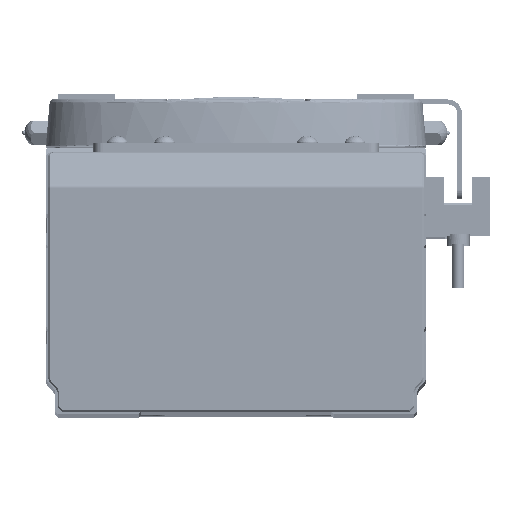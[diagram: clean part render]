
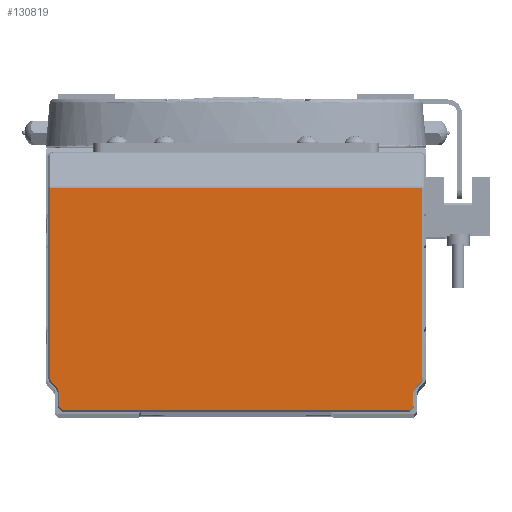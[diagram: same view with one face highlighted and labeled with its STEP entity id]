
A CAD part, top view. The second image highlights one B-rep face of the part: STEP entity #130819.
In plain terms, the highlighted planar face has unit normal (0, 0, 1).
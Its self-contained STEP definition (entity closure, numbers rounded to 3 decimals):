
#4236 = DIRECTION ( 'NONE',  ( 0.707, -0.707, 0. ) ) ;
#6943 = VECTOR ( 'NONE', #73361, 1000. ) ;
#6946 = CARTESIAN_POINT ( 'NONE',  ( 36.376, -21.2, 1010. ) ) ;
#8991 = LINE ( 'NONE', #63121, #109283 ) ;
#9624 = VECTOR ( 'NONE', #143566, 1000. ) ;
#9827 = VECTOR ( 'NONE', #4236, 1000. ) ;
#11195 = ORIENTED_EDGE ( 'NONE', *, *, #94949, .T. ) ;
#11327 = DIRECTION ( 'NONE',  ( 0., 0., 1. ) ) ;
#13070 = VERTEX_POINT ( 'NONE', #18923 ) ;
#14584 = CARTESIAN_POINT ( 'NONE',  ( 37.2, -17.828, 1010. ) ) ;
#15521 = VERTEX_POINT ( 'NONE', #58185 ) ;
#15671 = CARTESIAN_POINT ( 'NONE',  ( 37.2, -20.376, 1010. ) ) ;
#16093 = EDGE_CURVE ( 'NONE', #13070, #73697, #89829, .T. ) ;
#18796 = CARTESIAN_POINT ( 'NONE',  ( -36.376, -21.2, 1010. ) ) ;
#18923 = CARTESIAN_POINT ( 'NONE',  ( 39.2, -14.172, 1010. ) ) ;
#19130 = DIRECTION ( 'NONE',  ( 0., 0., -1. ) ) ;
#19269 = CARTESIAN_POINT ( 'NONE',  ( -31.538, -22.538, 1010. ) ) ;
#19329 = ORIENTED_EDGE ( 'NONE', *, *, #60224, .T. ) ;
#21214 = CARTESIAN_POINT ( 'NONE',  ( 39.5, -17.828, 1010. ) ) ;
#21229 = DIRECTION ( 'NONE',  ( 0., -1., 0. ) ) ;
#22389 = DIRECTION ( 'NONE',  ( 0., 1., 0. ) ) ;
#22837 = CARTESIAN_POINT ( 'NONE',  ( 0., -21.2, 1010. ) ) ;
#23509 = EDGE_CURVE ( 'NONE', #159830, #115556, #45038, .T. ) ;
#24301 = EDGE_CURVE ( 'NONE', #33950, #172850, #144314, .T. ) ;
#24622 = VERTEX_POINT ( 'NONE', #140643 ) ;
#28426 = CIRCLE ( 'NONE', #127509, 1.7 ) ;
#29688 = DIRECTION ( 'NONE',  ( -1., 0., 0. ) ) ;
#33764 = LINE ( 'NONE', #87851, #172364 ) ;
#33950 = VERTEX_POINT ( 'NONE', #18796 ) ;
#34556 = CARTESIAN_POINT ( 'NONE',  ( 38.702, -15.374, 1010. ) ) ;
#35378 = LINE ( 'NONE', #89498, #9624 ) ;
#36849 = AXIS2_PLACEMENT_3D ( 'NONE', #132819, #11327, #65464 ) ;
#42215 = VERTEX_POINT ( 'NONE', #79691 ) ;
#45038 = LINE ( 'NONE', #99156, #81423 ) ;
#47602 = ORIENTED_EDGE ( 'NONE', *, *, #16093, .T. ) ;
#52767 = CARTESIAN_POINT ( 'NONE',  ( 0., 9., 1010. ) ) ;
#53566 = VERTEX_POINT ( 'NONE', #76097 ) ;
#53725 = CARTESIAN_POINT ( 'NONE',  ( -39.5, 25.586, 1010. ) ) ;
#57874 = CARTESIAN_POINT ( 'NONE',  ( -37.2, -20.376, 1010. ) ) ;
#58185 = CARTESIAN_POINT ( 'NONE',  ( -37.2, -17.828, 1010. ) ) ;
#60224 = EDGE_CURVE ( 'NONE', #53566, #15521, #74417, .T. ) ;
#63121 = CARTESIAN_POINT ( 'NONE',  ( -39.2, 9., 1010. ) ) ;
#63898 = VECTOR ( 'NONE', #22389, 1000. ) ;
#65464 = DIRECTION ( 'NONE',  ( -1., 0., 0. ) ) ;
#71648 = LINE ( 'NONE', #125712, #9827 ) ;
#73228 = DIRECTION ( 'NONE',  ( -1., 0., 0. ) ) ;
#73361 = DIRECTION ( 'NONE',  ( 0.707, -0.707, 0. ) ) ;
#73697 = VERTEX_POINT ( 'NONE', #150947 ) ;
#74417 = CIRCLE ( 'NONE', #173561, 2.3 ) ;
#75315 = DIRECTION ( 'NONE',  ( 0., 0., -1. ) ) ;
#76097 = CARTESIAN_POINT ( 'NONE',  ( -37.874, -16.202, 1010. ) ) ;
#76919 = DIRECTION ( 'NONE',  ( 1., 0., 0. ) ) ;
#79691 = CARTESIAN_POINT ( 'NONE',  ( -39.2, -14.172, 1010. ) ) ;
#80280 = AXIS2_PLACEMENT_3D ( 'NONE', #52767, #106857, #160922 ) ;
#80892 = EDGE_CURVE ( 'NONE', #158575, #159830, #165590, .T. ) ;
#81423 = VECTOR ( 'NONE', #153225, 1000. ) ;
#81966 = VECTOR ( 'NONE', #107816, 1000. ) ;
#82096 = EDGE_LOOP ( 'NONE', ( #152137, #47602, #98853, #128306, #139491, #96370, #19329, #169838, #139627, #132045, #89729, #11195, #172359, #169259 ) ) ;
#82386 = EDGE_CURVE ( 'NONE', #85041, #33950, #71648, .T. ) ;
#85041 = VERTEX_POINT ( 'NONE', #57874 ) ;
#87851 = CARTESIAN_POINT ( 'NONE',  ( 37.288, -20.288, 1010. ) ) ;
#88640 = LINE ( 'NONE', #142701, #118921 ) ;
#89152 = AXIS2_PLACEMENT_3D ( 'NONE', #21214, #75315, #129373 ) ;
#89498 = CARTESIAN_POINT ( 'NONE',  ( 37.2, 9., 1010. ) ) ;
#89729 = ORIENTED_EDGE ( 'NONE', *, *, #172072, .T. ) ;
#89829 = LINE ( 'NONE', #143882, #63898 ) ;
#92062 = CARTESIAN_POINT ( 'NONE',  ( 37.874, -16.202, 1010. ) ) ;
#94949 = EDGE_CURVE ( 'NONE', #98769, #158575, #35378, .T. ) ;
#96370 = ORIENTED_EDGE ( 'NONE', *, *, #114552, .T. ) ;
#96466 = EDGE_CURVE ( 'NONE', #24622, #42215, #8991, .T. ) ;
#97090 = CARTESIAN_POINT ( 'NONE',  ( -37.5, -14.172, 1010. ) ) ;
#97364 = CARTESIAN_POINT ( 'NONE',  ( -38.702, -15.374, 1010. ) ) ;
#98769 = VERTEX_POINT ( 'NONE', #15671 ) ;
#98853 = ORIENTED_EDGE ( 'NONE', *, *, #108013, .T. ) ;
#99156 = CARTESIAN_POINT ( 'NONE',  ( 31.538, -22.538, 1010. ) ) ;
#106857 = DIRECTION ( 'NONE',  ( 0., 0., -1. ) ) ;
#107816 = DIRECTION ( 'NONE',  ( -1., 0., 0. ) ) ;
#108013 = EDGE_CURVE ( 'NONE', #73697, #24622, #175233, .T. ) ;
#109283 = VECTOR ( 'NONE', #117188, 1000. ) ;
#110248 = EDGE_CURVE ( 'NONE', #115556, #13070, #113327, .T. ) ;
#112781 = VECTOR ( 'NONE', #76919, 1000. ) ;
#113327 = CIRCLE ( 'NONE', #36849, 1.7 ) ;
#114552 = EDGE_CURVE ( 'NONE', #120595, #53566, #140770, .T. ) ;
#115556 = VERTEX_POINT ( 'NONE', #34556 ) ;
#117188 = DIRECTION ( 'NONE',  ( 0., -1., 0. ) ) ;
#118921 = VECTOR ( 'NONE', #21229, 1000. ) ;
#120139 = FACE_OUTER_BOUND ( 'NONE', #82096, .T. ) ;
#120595 = VERTEX_POINT ( 'NONE', #97364 ) ;
#125712 = CARTESIAN_POINT ( 'NONE',  ( -36.288, -21.288, 1010. ) ) ;
#127509 = AXIS2_PLACEMENT_3D ( 'NONE', #97090, #151157, #29688 ) ;
#128306 = ORIENTED_EDGE ( 'NONE', *, *, #96466, .T. ) ;
#129373 = DIRECTION ( 'NONE',  ( -1., 0., 0. ) ) ;
#130819 = ADVANCED_FACE ( 'NONE', ( #120139 ), #174255, .F. ) ;
#132045 = ORIENTED_EDGE ( 'NONE', *, *, #24301, .T. ) ;
#132819 = CARTESIAN_POINT ( 'NONE',  ( 37.5, -14.172, 1010. ) ) ;
#139491 = ORIENTED_EDGE ( 'NONE', *, *, #173619, .T. ) ;
#139627 = ORIENTED_EDGE ( 'NONE', *, *, #82386, .T. ) ;
#140007 = EDGE_CURVE ( 'NONE', #15521, #85041, #88640, .T. ) ;
#140631 = CARTESIAN_POINT ( 'NONE',  ( -39.5, -17.828, 1010. ) ) ;
#140643 = CARTESIAN_POINT ( 'NONE',  ( -39.2, 25.586, 1010. ) ) ;
#140770 = LINE ( 'NONE', #19269, #6943 ) ;
#141926 = DIRECTION ( 'NONE',  ( 0.707, 0.707, 0. ) ) ;
#142701 = CARTESIAN_POINT ( 'NONE',  ( -37.2, 9., 1010. ) ) ;
#143566 = DIRECTION ( 'NONE',  ( 0., 1., 0. ) ) ;
#143882 = CARTESIAN_POINT ( 'NONE',  ( 39.2, 9., 1010. ) ) ;
#144314 = LINE ( 'NONE', #22837, #112781 ) ;
#150947 = CARTESIAN_POINT ( 'NONE',  ( 39.2, 25.586, 1010. ) ) ;
#151157 = DIRECTION ( 'NONE',  ( 0., 0., 1. ) ) ;
#152137 = ORIENTED_EDGE ( 'NONE', *, *, #110248, .T. ) ;
#153225 = DIRECTION ( 'NONE',  ( 0.707, 0.707, 0. ) ) ;
#158575 = VERTEX_POINT ( 'NONE', #14584 ) ;
#159830 = VERTEX_POINT ( 'NONE', #92062 ) ;
#160922 = DIRECTION ( 'NONE',  ( -1., 0., 0. ) ) ;
#165590 = CIRCLE ( 'NONE', #89152, 2.3 ) ;
#169259 = ORIENTED_EDGE ( 'NONE', *, *, #23509, .T. ) ;
#169838 = ORIENTED_EDGE ( 'NONE', *, *, #140007, .T. ) ;
#172072 = EDGE_CURVE ( 'NONE', #172850, #98769, #33764, .T. ) ;
#172359 = ORIENTED_EDGE ( 'NONE', *, *, #80892, .T. ) ;
#172364 = VECTOR ( 'NONE', #141926, 1000. ) ;
#172850 = VERTEX_POINT ( 'NONE', #6946 ) ;
#173561 = AXIS2_PLACEMENT_3D ( 'NONE', #140631, #19130, #73228 ) ;
#173619 = EDGE_CURVE ( 'NONE', #42215, #120595, #28426, .T. ) ;
#174255 = PLANE ( 'NONE',  #80280 ) ;
#175233 = LINE ( 'NONE', #53725, #81966 ) ;
